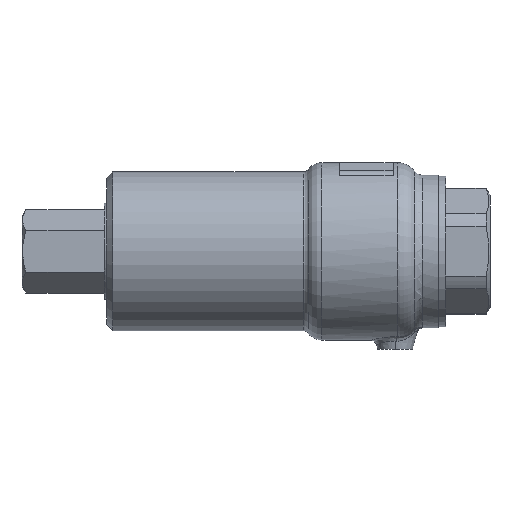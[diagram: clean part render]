
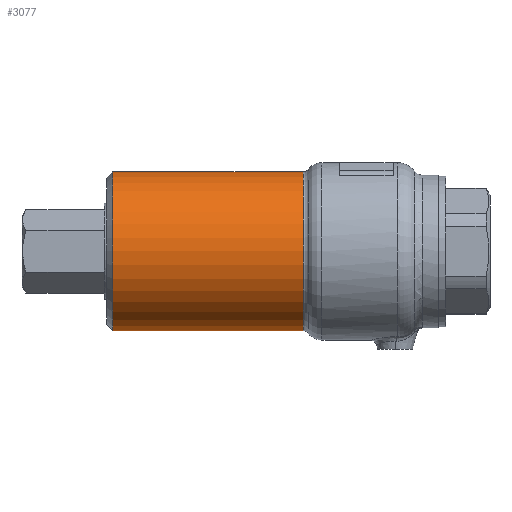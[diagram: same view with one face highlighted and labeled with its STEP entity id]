
A CAD part, left-side view. The second image highlights one B-rep face of the part: STEP entity #3077.
In plain terms, the highlighted cylindrical face has radius 38.5 mm (diameter 77 mm), a partial arc.
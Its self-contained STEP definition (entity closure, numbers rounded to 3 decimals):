
#150 = EDGE_CURVE ( 'NONE', #3858, #2508, #2021, .T. ) ;
#161 = DIRECTION ( 'NONE',  ( 0., 1., 0. ) ) ;
#269 = DIRECTION ( 'NONE',  ( 0., 0., 1. ) ) ;
#292 = DIRECTION ( 'NONE',  ( 0., -1., 0. ) ) ;
#544 = CARTESIAN_POINT ( 'NONE',  ( 0., 140.5, 38.5 ) ) ;
#551 = EDGE_LOOP ( 'NONE', ( #2277, #874, #4623, #1553 ) ) ;
#558 = VERTEX_POINT ( 'NONE', #2768 ) ;
#758 = DIRECTION ( 'NONE',  ( 0., 0., 1. ) ) ;
#874 = ORIENTED_EDGE ( 'NONE', *, *, #1047, .T. ) ;
#1047 = EDGE_CURVE ( 'NONE', #3858, #2629, #3043, .T. ) ;
#1205 = CARTESIAN_POINT ( 'NONE',  ( 0., 140.5, 0. ) ) ;
#1528 = DIRECTION ( 'NONE',  ( 0., 1., 0. ) ) ;
#1538 = CARTESIAN_POINT ( 'NONE',  ( 0., 116., -38.5 ) ) ;
#1553 = ORIENTED_EDGE ( 'NONE', *, *, #4018, .T. ) ;
#1619 = DIRECTION ( 'NONE',  ( 0., 1., 0. ) ) ;
#1697 = EDGE_CURVE ( 'NONE', #2629, #558, #4397, .T. ) ;
#1942 = AXIS2_PLACEMENT_3D ( 'NONE', #1205, #4653, #2730 ) ;
#2004 = CARTESIAN_POINT ( 'NONE',  ( 0., 23.624, -38.5 ) ) ;
#2021 = LINE ( 'NONE', #4301, #2178 ) ;
#2134 = VECTOR ( 'NONE', #161, 1000. ) ;
#2178 = VECTOR ( 'NONE', #1619, 1000. ) ;
#2238 = CARTESIAN_POINT ( 'NONE',  ( 0., 116., 0. ) ) ;
#2252 = AXIS2_PLACEMENT_3D ( 'NONE', #3106, #1528, #758 ) ;
#2277 = ORIENTED_EDGE ( 'NONE', *, *, #150, .F. ) ;
#2508 = VERTEX_POINT ( 'NONE', #1538 ) ;
#2629 = VERTEX_POINT ( 'NONE', #4267 ) ;
#2677 = AXIS2_PLACEMENT_3D ( 'NONE', #2238, #292, #269 ) ;
#2730 = DIRECTION ( 'NONE',  ( 0., 0., 1. ) ) ;
#2768 = CARTESIAN_POINT ( 'NONE',  ( 0., 116., 38.5 ) ) ;
#3043 = CIRCLE ( 'NONE', #2252, 38.5 ) ;
#3077 = ADVANCED_FACE ( 'NONE', ( #3129 ), #3884, .T. ) ;
#3106 = CARTESIAN_POINT ( 'NONE',  ( 0., 23.624, 0. ) ) ;
#3129 = FACE_OUTER_BOUND ( 'NONE', #551, .T. ) ;
#3469 = CIRCLE ( 'NONE', #2677, 38.5 ) ;
#3858 = VERTEX_POINT ( 'NONE', #2004 ) ;
#3884 = CYLINDRICAL_SURFACE ( 'NONE', #1942, 38.5 ) ;
#4018 = EDGE_CURVE ( 'NONE', #558, #2508, #3469, .T. ) ;
#4267 = CARTESIAN_POINT ( 'NONE',  ( 0., 23.624, 38.5 ) ) ;
#4301 = CARTESIAN_POINT ( 'NONE',  ( 0., 140.5, -38.5 ) ) ;
#4397 = LINE ( 'NONE', #544, #2134 ) ;
#4623 = ORIENTED_EDGE ( 'NONE', *, *, #1697, .T. ) ;
#4653 = DIRECTION ( 'NONE',  ( 0., 1., 0. ) ) ;
